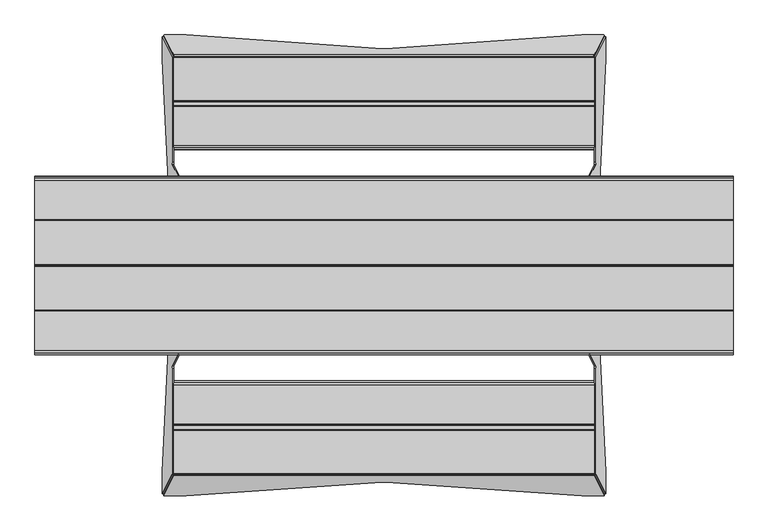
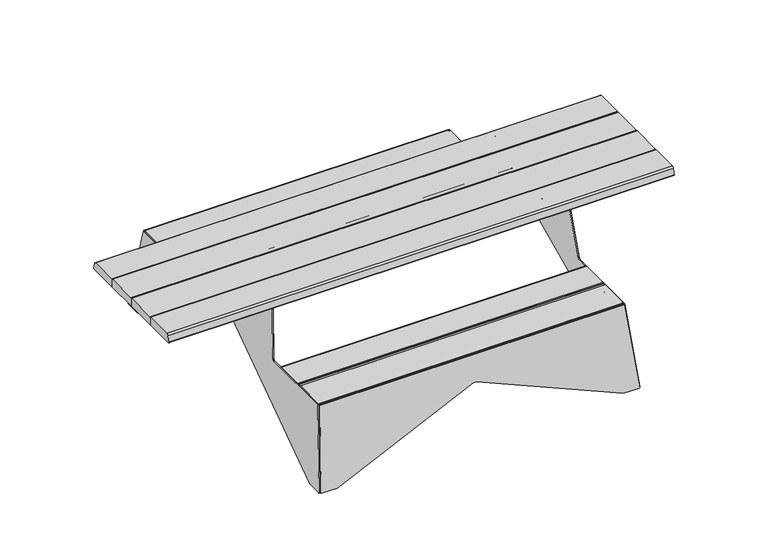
"""IFC4 building model written with IfcOpenShell, lengths in millimetres: furniture geometry, Vestre - Stoop Picnic - 2422 : Vestre - Stoop Picnic - 2422."""

from ifc_helpers import new_model, si_unit, point, frame, frame_2d, origin, place, context, project, spatial, polyline, circle_curve, trimmed, segment, composite_curve, outline, extrude, source, transform, mapped, element, save


def furniture_01230732(model_context):
    return source(origin(), model_context, "Body", "SweptSolid", [
        extrude(outline(composite_curve([segment(polyline([(339.56, 835.1033622), (404.56, 829.4165991), (404.56, 749.4550941), (399.56, 749.4550941), (399.56, 799.4550941), (350.12, 799.4550941), (350.12, 804.4550941), (344.56, 804.4550941)]), True, "CONTINUOUS"), segment(trimmed(circle_curve(frame_2d((344.56, 809.4550941)), 5.0), [point((344.56, 804.4550941))], [point((339.56, 809.4550941))], False, "CARTESIAN"), True, "CONTINUOUS"), segment(polyline([(339.56, 809.4550941), (339.56, 835.1033622)]), True, "CONTINUOUS")], self_intersect=False)), frame((0.0, 494.6519015, 0.0), z_axis=(0.0, 1.0, 0.0), x_axis=(0.0, 0.0, 1.0)), (0.0, 0.0, 1.0), 281.6),
        extrude(outline(composite_curve([segment(polyline([(339.56, -835.1033622), (339.56, -809.4550941)]), True, "CONTINUOUS"), segment(trimmed(circle_curve(frame_2d((344.56, -809.4550941)), 5.0), [point((339.56, -809.4550941))], [point((344.56, -804.4550941))], False, "CARTESIAN"), True, "CONTINUOUS"), segment(polyline([(344.56, -804.4550941), (350.12, -804.4550941), (350.12, -799.4550941), (399.56, -799.4550941), (399.56, -749.4550941), (404.56, -749.4550941), (404.56, -829.4165991), (339.56, -835.1033622)]), True, "CONTINUOUS")], self_intersect=False)), frame((0.0, 494.6519015, 0.0), z_axis=(0.0, 1.0, 0.0), x_axis=(0.0, 0.0, 1.0)), (0.0, 0.0, 1.0), 281.6),
        extrude(outline(composite_curve([segment(polyline([(339.56, 835.1033622), (404.56, 829.4165991), (404.56, 749.4550941), (399.56, 749.4550941), (399.56, 799.4550941), (350.12, 799.4550941), (350.12, 804.4550941), (344.56, 804.4550941)]), True, "CONTINUOUS"), segment(trimmed(circle_curve(frame_2d((344.56, 809.4550941)), 5.0), [point((344.56, 804.4550941))], [point((339.56, 809.4550941))], False, "CARTESIAN"), True, "CONTINUOUS"), segment(polyline([(339.56, 809.4550941), (339.56, 835.1033622)]), True, "CONTINUOUS")], self_intersect=False)), frame((0.0, -776.2519015, 0.0), z_axis=(0.0, 1.0, 0.0), x_axis=(0.0, 0.0, 1.0)), (0.0, 0.0, 1.0), 281.6),
        extrude(outline(composite_curve([segment(polyline([(339.56, -835.1033622), (339.56, -809.4550941)]), True, "CONTINUOUS"), segment(trimmed(circle_curve(frame_2d((344.56, -809.4550941)), 5.0), [point((339.56, -809.4550941))], [point((344.56, -804.4550941))], False, "CARTESIAN"), True, "CONTINUOUS"), segment(polyline([(344.56, -804.4550941), (350.12, -804.4550941), (350.12, -799.4550941), (399.56, -799.4550941), (399.56, -749.4550941), (404.56, -749.4550941), (404.56, -829.4165991), (339.56, -835.1033622)]), True, "CONTINUOUS")], self_intersect=False)), frame((0.0, -776.2519015, 0.0), z_axis=(0.0, 1.0, 0.0), x_axis=(0.0, 0.0, 1.0)), (0.0, 0.0, 1.0), 281.6),
        extrude(outline(composite_curve([segment(polyline([(644.56, 808.4193198), (705.0, 803.131505), (705.0, 723.17), (700.0, 723.17), (700.0, 773.17), (650.56, 773.17), (650.56, 778.17), (649.56, 778.17)]), True, "CONTINUOUS"), segment(trimmed(circle_curve(frame_2d((649.56, 783.17)), 5.0), [point((649.56, 778.17))], [point((644.56, 783.17))], False, "CARTESIAN"), True, "CONTINUOUS"), segment(polyline([(644.56, 783.17), (644.56, 808.4193198)]), True, "CONTINUOUS")], self_intersect=False)), frame((0.0, -260.0, 0.0), z_axis=(0.0, 1.0, 0.0), x_axis=(0.0, 0.0, 1.0)), (0.0, 0.0, 1.0), 520.0),
        extrude(outline(composite_curve([segment(polyline([(644.56, -808.4193198), (644.56, -783.17)]), True, "CONTINUOUS"), segment(trimmed(circle_curve(frame_2d((649.56, -783.17)), 5.0), [point((644.56, -783.17))], [point((649.56, -778.17))], False, "CARTESIAN"), True, "CONTINUOUS"), segment(polyline([(649.56, -778.17), (650.56, -778.17), (650.56, -773.17), (700.0, -773.17), (700.0, -723.17), (705.0, -723.17), (705.0, -803.131505), (644.56, -808.4193198)]), True, "CONTINUOUS")], self_intersect=False)), frame((0.0, -260.0, 0.0), z_axis=(0.0, 1.0, 0.0), x_axis=(0.0, 0.0, 1.0)), (0.0, 0.0, 1.0), 520.0),
        extrude(outline(composite_curve([segment(trimmed(circle_curve(frame_2d((150.8, 662.5)), 2.5), [point((153.3, 662.5))], [point((150.8, 660.0))], False, "CARTESIAN"), True, "CONTINUOUS"), segment(polyline([(150.8, 660.0), (135.8, 660.0)]), True, "CONTINUOUS"), segment(trimmed(circle_curve(frame_2d((135.8, 662.5)), 2.5), [point((135.8, 660.0))], [point((133.3, 662.5))], False, "CARTESIAN"), True, "CONTINUOUS"), segment(polyline([(133.3, 662.5), (133.3, 697.5)]), True, "CONTINUOUS"), segment(trimmed(circle_curve(frame_2d((135.8, 697.5)), 2.5), [point((133.3, 697.5))], [point((135.8, 700.0))], False, "CARTESIAN"), True, "CONTINUOUS"), segment(polyline([(135.8, 700.0), (150.8, 700.0)]), True, "CONTINUOUS"), segment(trimmed(circle_curve(frame_2d((150.8, 697.5)), 2.5), [point((150.8, 700.0))], [point((153.3, 697.5))], False, "CARTESIAN"), True, "CONTINUOUS"), segment(polyline([(153.3, 697.5), (153.3, 662.5)]), True, "CONTINUOUS")], self_intersect=False)), frame((-773.17, 0.0, 0.0), z_axis=(1.0, 0.0, 0.0), x_axis=(0.0, 1.0, 0.0)), (0.0, 0.0, 1.0), 1546.34),
        extrude(outline(composite_curve([segment(trimmed(circle_curve(frame_2d((-135.8, 662.5)), 2.5), [point((-133.3, 662.5))], [point((-135.8, 660.0))], False, "CARTESIAN"), True, "CONTINUOUS"), segment(polyline([(-135.8, 660.0), (-150.8, 660.0)]), True, "CONTINUOUS"), segment(trimmed(circle_curve(frame_2d((-150.8, 662.5)), 2.5), [point((-150.8, 660.0))], [point((-153.3, 662.5))], False, "CARTESIAN"), True, "CONTINUOUS"), segment(polyline([(-153.3, 662.5), (-153.3, 697.5)]), True, "CONTINUOUS"), segment(trimmed(circle_curve(frame_2d((-150.8, 697.5)), 2.5), [point((-153.3, 697.5))], [point((-150.8, 700.0))], False, "CARTESIAN"), True, "CONTINUOUS"), segment(polyline([(-150.8, 700.0), (-135.8, 700.0)]), True, "CONTINUOUS"), segment(trimmed(circle_curve(frame_2d((-135.8, 697.5)), 2.5), [point((-135.8, 700.0))], [point((-133.3, 697.5))], False, "CARTESIAN"), True, "CONTINUOUS"), segment(polyline([(-133.3, 697.5), (-133.3, 662.5)]), True, "CONTINUOUS")], self_intersect=False)), frame((-773.17, 0.0, 0.0), z_axis=(1.0, 0.0, 0.0), x_axis=(0.0, 1.0, 0.0)), (0.0, 0.0, 1.0), 1546.34),
        extrude(outline(composite_curve([segment(polyline([(470.7929577, 449.56), (622.4519015, 449.56)]), True, "CONTINUOUS"), segment(trimmed(circle_curve(frame_2d((622.4519015, 446.56)), 3.0), [point((622.4519015, 449.56))], [point((625.4519015, 446.56))], False, "CARTESIAN"), True, "CONTINUOUS"), segment(polyline([(625.4519015, 446.56), (625.4519015, 404.56), (456.2210468, 404.56)]), True, "CONTINUOUS"), segment(trimmed(circle_curve(frame_2d((456.2210468, 407.56)), 3.0), [point((456.2210468, 404.56))], [point((453.2979366, 408.2348532))], False, "CARTESIAN"), True, "CONTINUOUS"), segment(polyline([(453.2979366, 408.2348532), (461.0492571, 441.8095105)]), True, "CONTINUOUS"), segment(trimmed(circle_curve(frame_2d((470.7929577, 439.56)), 10.0), [point((461.0492571, 441.8095105))], [point((470.7929577, 449.56))], False, "CARTESIAN"), True, "CONTINUOUS")], self_intersect=False)), frame((-825.9170525, 0.0, 0.0), z_axis=(1.0, 0.0, 0.0), x_axis=(0.0, 1.0, 0.0)), (0.0, 0.0, 1.0), 1651.834105),
        extrude(outline(composite_curve([segment(polyline([(648.4519015, 449.56), (815.4495299, 449.56)]), True, "CONTINUOUS"), segment(trimmed(circle_curve(frame_2d((815.4495299, 446.56)), 3.0), [point((815.4495299, 449.56))], [point((818.4495299, 446.56))], False, "CARTESIAN"), True, "CONTINUOUS"), segment(polyline([(818.4495299, 446.56), (818.4495299, 404.56), (645.4519015, 404.56), (645.4519015, 446.56)]), True, "CONTINUOUS"), segment(trimmed(circle_curve(frame_2d((648.4519015, 446.56)), 3.0), [point((645.4519015, 446.56))], [point((648.4519015, 449.56))], False, "CARTESIAN"), True, "CONTINUOUS")], self_intersect=False)), frame((-825.9170525, 0.0, 0.0), z_axis=(1.0, 0.0, 0.0), x_axis=(0.0, 1.0, 0.0)), (0.0, 0.0, 1.0), 1651.834105),
        extrude(outline(composite_curve([segment(trimmed(circle_curve(frame_2d((-470.7929577, 439.56)), 10.0), [point((-470.7929577, 449.56))], [point((-461.0492571, 441.8095105))], False, "CARTESIAN"), True, "CONTINUOUS"), segment(polyline([(-461.0492571, 441.8095105), (-453.2979366, 408.2348532)]), True, "CONTINUOUS"), segment(trimmed(circle_curve(frame_2d((-456.2210468, 407.56)), 3.0), [point((-453.2979366, 408.2348532))], [point((-456.2210468, 404.56))], False, "CARTESIAN"), True, "CONTINUOUS"), segment(polyline([(-456.2210468, 404.56), (-625.4519015, 404.56), (-625.4519015, 446.56)]), True, "CONTINUOUS"), segment(trimmed(circle_curve(frame_2d((-622.4519015, 446.56)), 3.0), [point((-625.4519015, 446.56))], [point((-622.4519015, 449.56))], False, "CARTESIAN"), True, "CONTINUOUS"), segment(polyline([(-622.4519015, 449.56), (-470.7929577, 449.56)]), True, "CONTINUOUS")], self_intersect=False)), frame((-825.9170525, 0.0, 0.0), z_axis=(1.0, 0.0, 0.0), x_axis=(0.0, 1.0, 0.0)), (0.0, 0.0, 1.0), 1651.834105),
        extrude(outline(composite_curve([segment(trimmed(circle_curve(frame_2d((-648.4519015, 446.56)), 3.0), [point((-648.4519015, 449.56))], [point((-645.4519015, 446.56))], False, "CARTESIAN"), True, "CONTINUOUS"), segment(polyline([(-645.4519015, 446.56), (-645.4519015, 404.56), (-818.4495299, 404.56), (-818.4495299, 446.56)]), True, "CONTINUOUS"), segment(trimmed(circle_curve(frame_2d((-815.4495299, 446.56)), 3.0), [point((-818.4495299, 446.56))], [point((-815.4495299, 449.56))], False, "CARTESIAN"), True, "CONTINUOUS"), segment(polyline([(-815.4495299, 449.56), (-648.4519015, 449.56)]), True, "CONTINUOUS")], self_intersect=False)), frame((-825.9170525, 0.0, 0.0), z_axis=(1.0, 0.0, 0.0), x_axis=(0.0, 1.0, 0.0)), (0.0, 0.0, 1.0), 1651.834105),
        extrude(outline(composite_curve([segment(trimmed(circle_curve(frame_2d((-627.9495299, 407.06)), 2.5), [point((-625.4495299, 407.06))], [point((-627.9495299, 404.56))], False, "CARTESIAN"), True, "CONTINUOUS"), segment(polyline([(-627.9495299, 404.56), (-642.9495299, 404.56)]), True, "CONTINUOUS"), segment(trimmed(circle_curve(frame_2d((-642.9495299, 407.06)), 2.5), [point((-642.9495299, 404.56))], [point((-645.4495299, 407.06))], False, "CARTESIAN"), True, "CONTINUOUS"), segment(polyline([(-645.4495299, 407.06), (-645.4495299, 442.06)]), True, "CONTINUOUS"), segment(trimmed(circle_curve(frame_2d((-642.9495299, 442.06)), 2.5), [point((-645.4495299, 442.06))], [point((-642.9495299, 444.56))], False, "CARTESIAN"), True, "CONTINUOUS"), segment(polyline([(-642.9495299, 444.56), (-627.9495299, 444.56)]), True, "CONTINUOUS"), segment(trimmed(circle_curve(frame_2d((-627.9495299, 442.06)), 2.5), [point((-627.9495299, 444.56))], [point((-625.4495299, 442.06))], False, "CARTESIAN"), True, "CONTINUOUS"), segment(polyline([(-625.4495299, 442.06), (-625.4495299, 407.06)]), True, "CONTINUOUS")], self_intersect=False)), frame((-825.9170525, 0.0, 0.0), z_axis=(1.0, 0.0, 0.0), x_axis=(0.0, 1.0, 0.0)), (0.0, 0.0, 1.0), 1651.834105),
        extrude(outline(composite_curve([segment(trimmed(circle_curve(frame_2d((642.9495299, 407.06)), 2.5), [point((645.4495299, 407.06))], [point((642.9495299, 404.56))], False, "CARTESIAN"), True, "CONTINUOUS"), segment(polyline([(642.9495299, 404.56), (627.9495299, 404.56)]), True, "CONTINUOUS"), segment(trimmed(circle_curve(frame_2d((627.9495299, 407.06)), 2.5), [point((627.9495299, 404.56))], [point((625.4495299, 407.06))], False, "CARTESIAN"), True, "CONTINUOUS"), segment(polyline([(625.4495299, 407.06), (625.4495299, 442.06)]), True, "CONTINUOUS"), segment(trimmed(circle_curve(frame_2d((627.9495299, 442.06)), 2.5), [point((625.4495299, 442.06))], [point((627.9495299, 444.56))], False, "CARTESIAN"), True, "CONTINUOUS"), segment(polyline([(627.9495299, 444.56), (642.9495299, 444.56)]), True, "CONTINUOUS"), segment(trimmed(circle_curve(frame_2d((642.9495299, 442.06)), 2.5), [point((642.9495299, 444.56))], [point((645.4495299, 442.06))], False, "CARTESIAN"), True, "CONTINUOUS"), segment(polyline([(645.4495299, 442.06), (645.4495299, 407.06)]), True, "CONTINUOUS")], self_intersect=False)), frame((-825.9170525, 0.0, 0.0), z_axis=(1.0, 0.0, 0.0), x_axis=(0.0, 1.0, 0.0)), (0.0, 0.0, 1.0), 1651.834105),
        extrude(outline(composite_curve([segment(polyline([(1.9926175, -1.8283149), (40.5419354, -449.2407489)]), True, "CONTINUOUS"), segment(trimmed(circle_curve(frame_2d((38.549318, -449.4124339)), 2.0), [point((40.5419354, -449.2407489))], [point((38.549318, -451.4124339))], False, "CARTESIAN"), True, "CONTINUOUS"), segment(polyline([(38.549318, -451.4124339), (-47.9080988, -451.4124339), (-815.5339415, -144.180342)]), True, "CONTINUOUS"), segment(trimmed(circle_curve(frame_2d((-822.9655449, -162.7483594)), 20.0), [point((-815.5339415, -144.180342))], [point((-830.3971483, -144.180342))], True, "CARTESIAN"), True, "CONTINUOUS"), segment(polyline([(-830.3971483, -144.180342), (-1598.022991, -451.4124339), (-1684.4804078, -451.4124339)]), True, "CONTINUOUS"), segment(trimmed(circle_curve(frame_2d((-1684.4804078, -449.4124339)), 2.0), [point((-1684.4804078, -451.4124339))], [point((-1686.4730252, -449.2407489))], False, "CARTESIAN"), True, "CONTINUOUS"), segment(polyline([(-1686.4730252, -449.2407489), (-1647.9237073, -1.8283149)]), True, "CONTINUOUS"), segment(trimmed(circle_curve(frame_2d((-1645.9310898, -2.0)), 2.0), [point((-1647.9237073, -1.8283149))], [point((-1645.9310898, 0.0))], False, "CARTESIAN"), True, "CONTINUOUS"), segment(polyline([(-1645.9310898, 0.0), (0.0, 0.0)]), True, "CONTINUOUS"), segment(trimmed(circle_curve(frame_2d((0.0, -2.0)), 2.0), [point((0.0, 0.0))], [point((1.9926175, -1.8283149))], False, "CARTESIAN"), True, "CONTINUOUS")], self_intersect=False)), frame((-822.9655449, 820.9639081, 444.56), z_axis=(0.0, 0.9848200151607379, 0.17357862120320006), x_axis=(-1.0, 0.0, 0.0)), (0.0, 0.0, 1.0), 5.0),
        extrude(outline(composite_curve([segment(trimmed(circle_curve(frame_2d((449.0237078, -2.0000001)), 2.0), [point((449.0237078, 0.0))], [point((450.9935733, -2.3458759))], False, "CARTESIAN"), True, "CONTINUOUS"), segment(polyline([(450.9935733, -2.3458759), (436.2726375, -86.1859829), (-151.8989261, -794.7915733)]), True, "CONTINUOUS"), segment(trimmed(circle_curve(frame_2d((-136.5096101, -807.5653336)), 20.0), [point((-151.8989261, -794.7915733))], [point((-155.3299789, -814.3324393))], True, "CARTESIAN"), True, "CONTINUOUS"), segment(polyline([(-155.3299789, -814.3324393), (156.2633988, -1680.921868), (141.5424631, -1764.761975)]), True, "CONTINUOUS"), segment(trimmed(circle_curve(frame_2d((139.5725976, -1764.4160992)), 2.0), [point((141.5424631, -1764.761975))], [point((138.8912688, -1766.2964692))], False, "CARTESIAN"), True, "CONTINUOUS"), segment(polyline([(138.8912688, -1766.2964692), (-283.2740725, -1613.3300849)]), True, "CONTINUOUS"), segment(trimmed(circle_curve(frame_2d((-282.5927438, -1611.4497149)), 2.0), [point((-283.2740725, -1613.3300849))], [point((-284.5626092, -1611.1038391))], False, "CARTESIAN"), True, "CONTINUOUS"), segment(polyline([(-284.5626092, -1611.1038391), (-213.3560422, -1205.5612638)]), True, "CONTINUOUS"), segment(trimmed(circle_curve(frame_2d((-223.2053695, -1203.8318849)), 10.0), [point((-213.3560422, -1205.5612638))], [point((-219.7987257, -1194.4300352))], True, "CARTESIAN"), True, "CONTINUOUS"), segment(polyline([(-219.7987257, -1194.4300352), (-459.4605222, -1107.5915506)]), True, "CONTINUOUS"), segment(trimmed(circle_curve(frame_2d((-458.7791935, -1105.7111806)), 2.0), [point((-459.4605222, -1107.5915506))], [point((-460.749059, -1105.3653049))], False, "CARTESIAN"), True, "CONTINUOUS"), segment(polyline([(-460.749059, -1105.3653049), (-339.9048232, -417.1214448)]), True, "CONTINUOUS"), segment(trimmed(circle_curve(frame_2d((-337.9349577, -417.4673206)), 2.0), [point((-339.9048232, -417.1214448))], [point((-337.9349577, -415.4673205))], False, "CARTESIAN"), True, "CONTINUOUS"), segment(polyline([(-337.9349577, -415.4673205), (-83.0257599, -415.4673206)]), True, "CONTINUOUS"), segment(trimmed(circle_curve(frame_2d((-83.0257599, -405.4673206)), 10.0), [point((-83.0257599, -415.4673206))], [point((-73.1764326, -407.1966995))], True, "CARTESIAN"), True, "CONTINUOUS"), segment(polyline([(-73.1764326, -407.1966995), (-1.9698655, -1.6541242)]), True, "CONTINUOUS"), segment(trimmed(circle_curve(frame_2d((0.0, -2.0)), 2.0), [point((-1.9698655, -1.6541242))], [point((0.0, 0.0))], False, "CARTESIAN"), True, "CONTINUOUS"), segment(polyline([(0.0, 0.0), (449.0237078, 0.0)]), True, "CONTINUOUS")], self_intersect=False)), frame((826.0612189, 819.0052141, 442.9121702), z_axis=(0.9961946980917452, 0.0, 0.08715574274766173), x_axis=(0.0858425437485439, 0.17293789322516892, -0.9811847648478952)), (0.0, 0.0, 1.0), 5.0),
        extrude(outline(composite_curve([segment(polyline([(-1.9698655, -1.6541242), (75.6833485, 440.6040227)]), True, "CONTINUOUS"), segment(trimmed(circle_curve(frame_2d((77.653214, 440.258147)), 2.0), [point((75.6833485, 440.6040227))], [point((77.653214, 442.258147))], False, "CARTESIAN"), True, "CONTINUOUS"), segment(polyline([(77.653214, 442.258147), (489.399684, 442.258147)]), True, "CONTINUOUS"), segment(trimmed(circle_curve(frame_2d((489.399684, 452.258147)), 10.0), [point((489.399684, 442.258147))], [point((499.2490113, 450.5287681))], True, "CARTESIAN"), True, "CONTINUOUS"), segment(polyline([(499.2490113, 450.5287681), (543.3324709, 701.5971805)]), True, "CONTINUOUS"), segment(trimmed(circle_curve(frame_2d((545.3023364, 701.2513047)), 2.0), [point((543.3324709, 701.5971805))], [point((545.3023364, 703.2513047))], False, "CARTESIAN"), True, "CONTINUOUS"), segment(polyline([(545.3023364, 703.2513047), (1244.0747888, 703.2513047)]), True, "CONTINUOUS"), segment(trimmed(circle_curve(frame_2d((1244.0747888, 701.2513047)), 2.0), [point((1244.0747888, 703.2513047))], [point((1246.0446543, 701.5971805))], False, "CARTESIAN"), True, "CONTINUOUS"), segment(polyline([(1246.0446543, 701.5971805), (1290.1281139, 450.5287681)]), True, "CONTINUOUS"), segment(trimmed(circle_curve(frame_2d((1299.9774412, 452.258147)), 10.0), [point((1290.1281139, 450.5287681))], [point((1299.9774412, 442.258147))], True, "CARTESIAN"), True, "CONTINUOUS"), segment(polyline([(1299.9774412, 442.258147), (1711.7239112, 442.258147)]), True, "CONTINUOUS"), segment(trimmed(circle_curve(frame_2d((1711.7239112, 440.258147)), 2.0), [point((1711.7239112, 442.258147))], [point((1713.6937767, 440.6040227))], False, "CARTESIAN"), True, "CONTINUOUS"), segment(polyline([(1713.6937767, 440.6040227), (1791.3469907, -1.6541242)]), True, "CONTINUOUS"), segment(trimmed(circle_curve(frame_2d((1789.3771252, -2.0)), 2.0), [point((1791.3469907, -1.6541242))], [point((1789.3771252, -4.0))], False, "CARTESIAN"), True, "CONTINUOUS"), segment(polyline([(1789.3771252, -4.0), (1704.254452, -4.0), (904.6084614, 452.7646666)]), True, "CONTINUOUS"), segment(trimmed(circle_curve(frame_2d((894.6885626, 435.3981584)), 20.0), [point((904.6084614, 452.7646666))], [point((884.7686638, 452.7646666))], True, "CARTESIAN"), True, "CONTINUOUS"), segment(polyline([(884.7686638, 452.7646666), (85.1226732, -4.0), (0.0, -4.0)]), True, "CONTINUOUS"), segment(trimmed(circle_curve(frame_2d((0.0, -2.0)), 2.0), [point((0.0, -4.0))], [point((-1.9698655, -1.6541242))], False, "CARTESIAN"), True, "CONTINUOUS")], self_intersect=False)), frame((-864.4623898, 894.6885626, 3.9847788), z_axis=(-0.9961946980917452, 0.0, 0.08715574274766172), x_axis=(0.0, -1.0, 0.0)), (0.0, 0.0, 1.0), 5.0),
        extrude(outline(composite_curve([segment(trimmed(circle_curve(frame_2d((449.0700791, -2.0000001)), 2.0), [point((449.0700791, 0.0))], [point((451.0626966, -1.828315))], False, "CARTESIAN"), True, "CONTINUOUS"), segment(polyline([(451.0626966, -1.828315), (592.3536081, -1641.6838058)]), True, "CONTINUOUS"), segment(trimmed(circle_curve(frame_2d((590.3609907, -1641.8554908)), 2.0), [point((592.3536081, -1641.6838058))], [point((590.7030934, -1643.8260151))], False, "CARTESIAN"), True, "CONTINUOUS"), segment(polyline([(590.7030934, -1643.8260151), (148.2513573, -1720.640058)]), True, "CONTINUOUS"), segment(trimmed(circle_curve(frame_2d((147.9092546, -1718.6695338)), 2.0), [point((148.2513573, -1720.640058))], [point((145.9166372, -1718.8412189))], False, "CARTESIAN"), True, "CONTINUOUS"), segment(polyline([(145.9166372, -1718.8412189), (138.4949126, -1632.702941), (378.6979687, -841.5370389)]), True, "CONTINUOUS"), segment(trimmed(circle_curve(frame_2d((359.5605433, -835.7267935)), 20.0), [point((378.6979687, -841.5370389))], [point((377.4220732, -826.7286964))], True, "CARTESIAN"), True, "CONTINUOUS"), segment(polyline([(377.4220732, -826.7286964), (5.4291072, -88.309963), (-1.9926174, -2.1716851)]), True, "CONTINUOUS"), segment(trimmed(circle_curve(frame_2d((0.0, -2.0)), 2.0), [point((-1.9926174, -2.1716851))], [point((0.0, 0.0))], False, "CARTESIAN"), True, "CONTINUOUS"), segment(polyline([(0.0, 0.0), (449.0700791, 0.0)]), True, "CONTINUOUS")], self_intersect=False)), frame((-863.5074803, -898.9424979, 2.1387189), z_axis=(0.0, -0.9848200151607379, 0.17357862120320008), x_axis=(0.08584254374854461, 0.1729378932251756, 0.981184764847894)), (0.0, 0.0, 1.0), 5.0),
        extrude(outline(composite_curve([segment(polyline([(0.0, 705.0), (0.0, 747.0)]), True, "CONTINUOUS"), segment(trimmed(circle_curve(frame_2d((3.0, 747.0)), 3.0), [point((0.0, 747.0))], [point((3.0, 750.0))], False, "CARTESIAN"), True, "CONTINUOUS"), segment(polyline([(3.0, 750.0), (174.9719175, 750.0)]), True, "CONTINUOUS"), segment(trimmed(circle_curve(frame_2d((174.9719175, 746.9719175)), 3.0280825), [point((174.9719175, 750.0))], [point((178.0, 746.9719175))], False, "CARTESIAN"), True, "CONTINUOUS"), segment(polyline([(178.0, 746.9719175), (178.0, 705.0), (0.0, 705.0)]), True, "CONTINUOUS")], self_intersect=False)), frame((-1369.8, 0.0, 0.0), z_axis=(1.0, 0.0, 0.0), x_axis=(0.0, 1.0, 0.0)), (0.0, 0.0, 1.0), 2739.6),
        extrude(outline(composite_curve([segment(polyline([(181.0, 750.0), (332.6565722, 750.0)]), True, "CONTINUOUS"), segment(trimmed(circle_curve(frame_2d((332.6565722, 740.0)), 10.0), [point((332.6565722, 750.0))], [point((342.4002729, 742.2495105))], False, "CARTESIAN"), True, "CONTINUOUS"), segment(polyline([(342.4002729, 742.2495105), (350.1515933, 708.6748532)]), True, "CONTINUOUS"), segment(trimmed(circle_curve(frame_2d((347.2284831, 708.0)), 3.0), [point((350.1515933, 708.6748532))], [point((347.2284831, 705.0))], False, "CARTESIAN"), True, "CONTINUOUS"), segment(polyline([(347.2284831, 705.0), (178.0, 705.0), (178.0, 747.0)]), True, "CONTINUOUS"), segment(trimmed(circle_curve(frame_2d((181.0, 747.0)), 3.0), [point((178.0, 747.0))], [point((181.0, 750.0))], False, "CARTESIAN"), True, "CONTINUOUS")], self_intersect=False)), frame((-1369.8, 0.0, 0.0), z_axis=(1.0, 0.0, 0.0), x_axis=(0.0, 1.0, 0.0)), (0.0, 0.0, 1.0), 2739.6),
        extrude(outline(composite_curve([segment(polyline([(0.0, 705.0), (-178.0, 705.0), (-178.0, 746.9719175)]), True, "CONTINUOUS"), segment(trimmed(circle_curve(frame_2d((-174.9719175, 746.9719175)), 3.0280825), [point((-178.0, 746.9719175))], [point((-174.9719175, 750.0))], False, "CARTESIAN"), True, "CONTINUOUS"), segment(polyline([(-174.9719175, 750.0), (-3.0, 750.0)]), True, "CONTINUOUS"), segment(trimmed(circle_curve(frame_2d((-3.0, 747.0)), 3.0), [point((-3.0, 750.0))], [point((0.0, 747.0))], False, "CARTESIAN"), True, "CONTINUOUS"), segment(polyline([(0.0, 747.0), (0.0, 705.0)]), True, "CONTINUOUS")], self_intersect=False)), frame((-1369.8, 0.0, 0.0), z_axis=(1.0, 0.0, 0.0), x_axis=(0.0, 1.0, 0.0)), (0.0, 0.0, 1.0), 2739.6),
        extrude(outline(composite_curve([segment(trimmed(circle_curve(frame_2d((-181.0, 747.0)), 3.0), [point((-181.0, 750.0))], [point((-178.0, 747.0))], False, "CARTESIAN"), True, "CONTINUOUS"), segment(polyline([(-178.0, 747.0), (-178.0, 705.0), (-347.2284831, 705.0)]), True, "CONTINUOUS"), segment(trimmed(circle_curve(frame_2d((-347.2284831, 708.0)), 3.0), [point((-347.2284831, 705.0))], [point((-350.1515933, 708.6748532))], False, "CARTESIAN"), True, "CONTINUOUS"), segment(polyline([(-350.1515933, 708.6748532), (-342.4002729, 742.2495105)]), True, "CONTINUOUS"), segment(trimmed(circle_curve(frame_2d((-332.6565722, 740.0)), 10.0), [point((-342.4002729, 742.2495105))], [point((-332.6565722, 750.0))], False, "CARTESIAN"), True, "CONTINUOUS"), segment(polyline([(-332.6565722, 750.0), (-181.0, 750.0)]), True, "CONTINUOUS")], self_intersect=False)), frame((-1369.8, 0.0, 0.0), z_axis=(1.0, 0.0, 0.0), x_axis=(0.0, 1.0, 0.0)), (0.0, 0.0, 1.0), 2739.6),
    ])


if __name__ == "__main__":
    model = new_model("IFC4")
    model_context = context("Model", 3, world=origin())
    ifc_project = project(units=[si_unit("LENGTHUNIT", "METRE", prefix="MILLI")], contexts=[model_context])
    site = spatial("IfcSite", under=ifc_project)
    building = spatial("IfcBuilding", under=site)
    placement = place(None, origin())
    furniture_shape = furniture_01230732(model_context)
    element("IfcFurniture", 1, ObjectType="Vestre - Stoop Picnic - 2422 : Vestre - Stoop Picnic - 2422", at=placement, inside=building, context=model_context, shape_type="MappedRepresentation", body=[
        mapped(furniture_shape, transform((0.0, 0.0, 0.0), x_axis=(1.0, 0.0, 0.0), y_axis=(0.0, 1.0, 0.0), z_axis=(0.0, 0.0, 1.0))),
    ])
    save(model, "model.ifc")
